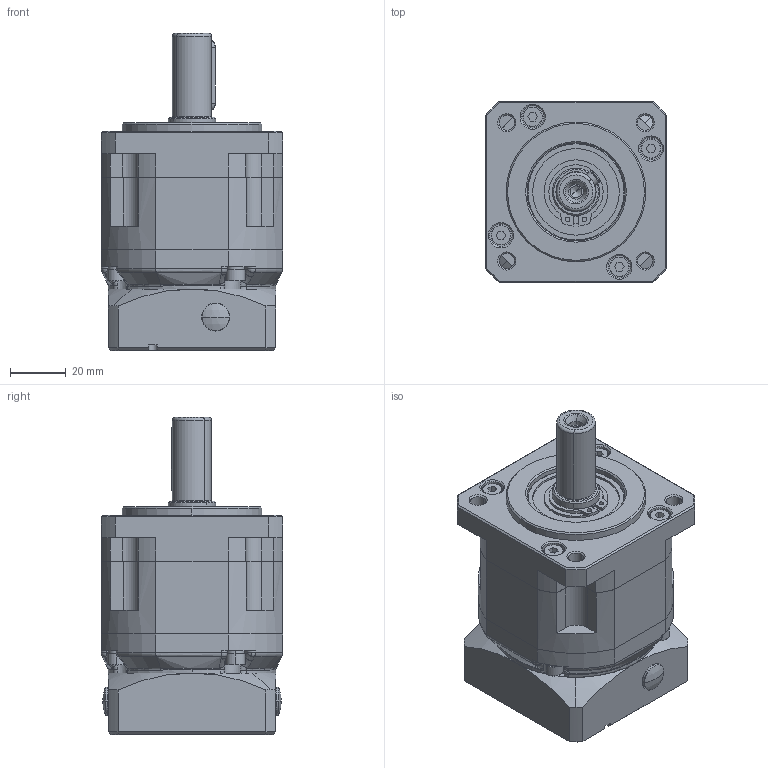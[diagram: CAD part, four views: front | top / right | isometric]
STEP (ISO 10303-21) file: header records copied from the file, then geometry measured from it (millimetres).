
FILE_DESCRIPTION (( 'STEP AP203' ), '1' );
FILE_NAME ('PS70L1-i-P2-S2-8-24-38.1-口47.14-M4.step', '2020-03-30T09:38:39', ( '个人用户' ), ( '微软中国' ), 'SwSTEP 2.0', 'SolidWorks 2018', '' );
FILE_SCHEMA (( 'CONFIG_CONTROL_DESIGN' ));
Length unit declared in the file: millimetre
Products named in the file (1): PS70L1-i-P2-S2-8-24-38.1-諳47.14-M4
Bounding box: 65 x 65 x 113.5 mm (x, y, z)
Volume: 221411 mm3; surface area: 93288.5 mm2
Topology: 41 solids, 41 shells, 1471 faces, 3632 edges, 2292 vertices
Faces by surface type: cylinder 493, plane 416, sphere 190, cone 168, torus 166, bspline 38
Entity records: 50172 total; most frequent: CARTESIAN_POINT 14958, DIRECTION 7697, ORIENTED_EDGE 7164, EDGE_CURVE 3582, AXIS2_PLACEMENT_3D 3240, VERTEX_POINT 2288, CIRCLE 1806, EDGE_LOOP 1688
